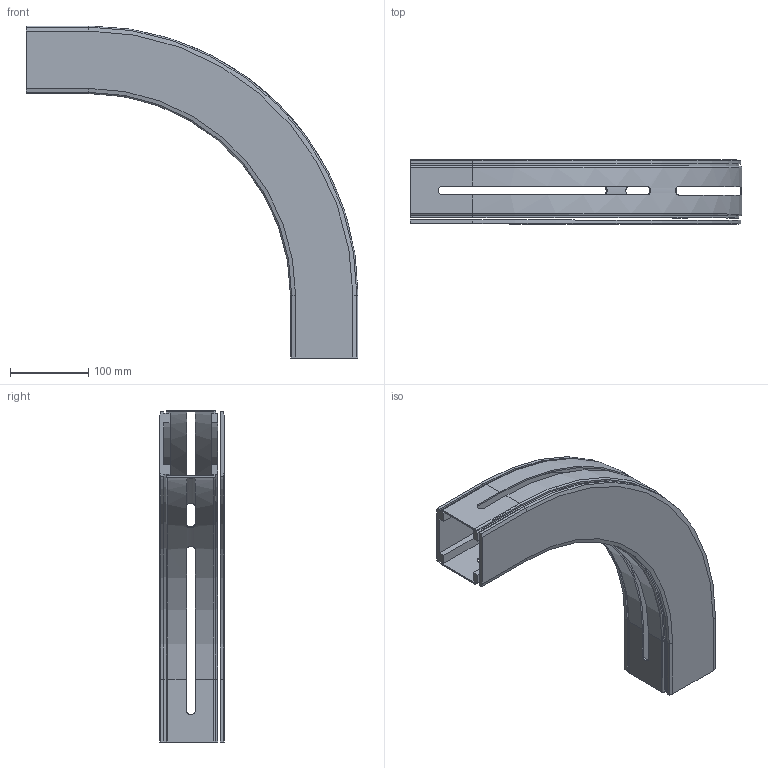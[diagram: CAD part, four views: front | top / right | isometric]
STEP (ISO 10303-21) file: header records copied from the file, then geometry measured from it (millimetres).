
FILE_DESCRIPTION((''),'2;1');
FILE_NAME('C:\Vault Klient\Projekt\Koncept konstruktion\Serie 530 Balk\530-5210.stp','2010-12-01T08:08:19',('Mathias'),(''),'Autodesk Inventor 2011','Autodesk Inventor 2011','');
FILE_SCHEMA(('AUTOMOTIVE_DESIGN { 1 0 10303 214 1 1 1 1 }'));
Length unit declared in the file: millimetre
Products named in the file (1): 530-5210
Bounding box: 423 x 82 x 423 mm (x, y, z)
Volume: 914351.4 mm3; surface area: 438330.9 mm2
Topology: 2 solids, 2 shells, 159 faces, 458 edges, 300 vertices
Faces by surface type: plane 101, cylinder 32, bspline 18, cone 4, torus 4
Entity records: 5570 total; most frequent: CARTESIAN_POINT 1340, ORIENTED_EDGE 916, DIRECTION 794, EDGE_CURVE 458, VECTOR 334, LINE 334, VERTEX_POINT 300, AXIS2_PLACEMENT_3D 230
